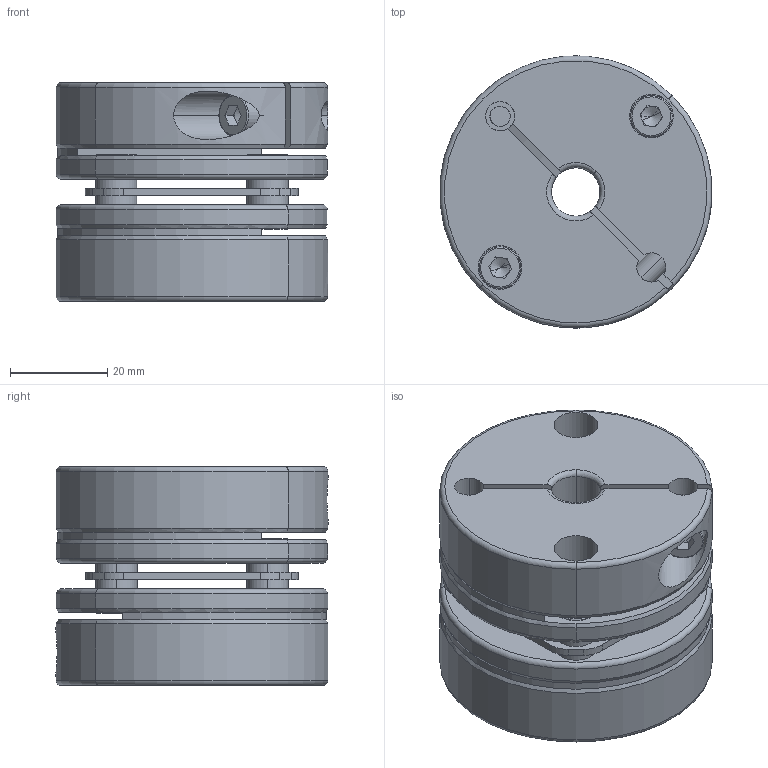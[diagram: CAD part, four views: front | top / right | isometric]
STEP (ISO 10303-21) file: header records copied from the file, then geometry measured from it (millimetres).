
FILE_DESCRIPTION (( 'STEP AP203' ), '1' );
FILE_NAME ('DXB-56X45-10-10.STEP', '2023-10-18T08:11:47', ( '' ), ( '' ), 'SwSTEP 2.0', 'SolidWorks 2020', '' );
FILE_SCHEMA (( 'CONFIG_CONTROL_DESIGN' ));
Length unit declared in the file: millimetre
Products named in the file (5): 56臚え郪; socket head cap screw_iso_ISO 4762 M5 x 10 - 10C; DXB-56X45-10-10; 56臚え薊粣ん傷裔-19K6; socket head cap screw_iso_ISO 4762 M5 x 16 - 16C
Assembly tree (9 placements, depth 2):
  DXB-56X45-10-10
    56臚え郪
    56臚え薊粣ん傷裔-19K6  x2
    socket head cap screw_iso_ISO 4762 M5 x 10 - 10C  x4
    socket head cap screw_iso_ISO 4762 M5 x 16 - 16C  x2
Bounding box: 55.89 x 56 x 45 mm (x, y, z)
Volume: 84968.3 mm3; surface area: 33631 mm2
Topology: 9 solids, 9 shells, 346 faces, 822 edges, 504 vertices
Faces by surface type: cylinder 136, plane 132, torus 44, cone 34
Entity records: 6083 total; most frequent: CARTESIAN_POINT 1197, DIRECTION 976, ORIENTED_EDGE 824, EDGE_CURVE 412, AXIS2_PLACEMENT_3D 400, VERTEX_POINT 261, CIRCLE 216, EDGE_LOOP 213
